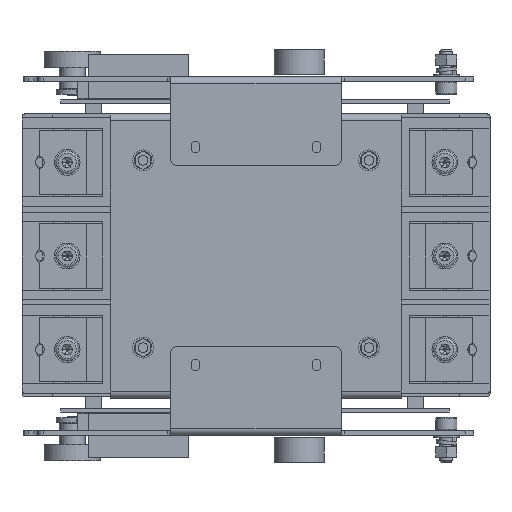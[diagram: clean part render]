
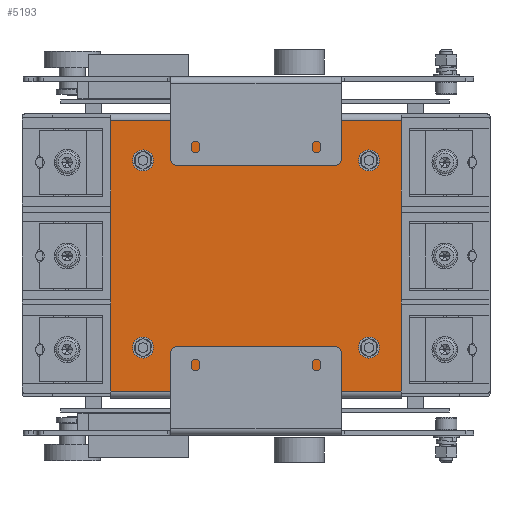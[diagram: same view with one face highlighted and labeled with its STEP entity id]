
A CAD part, front view. The second image highlights one B-rep face of the part: STEP entity #5193.
In plain terms, the highlighted planar face has unit normal (0, -1, 0).
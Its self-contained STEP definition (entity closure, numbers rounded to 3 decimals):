
#2436=FACE_BOUND('',#10329,.T.);
#2437=FACE_BOUND('',#10330,.T.);
#2438=FACE_BOUND('',#10331,.T.);
#2439=FACE_BOUND('',#10332,.T.);
#2440=FACE_BOUND('',#10333,.T.);
#3691=CIRCLE('',#37659,3.);
#3692=CIRCLE('',#37660,3.);
#3693=CIRCLE('',#37661,3.);
#3694=CIRCLE('',#37662,3.);
#5193=ADVANCED_FACE('',(#2436,#2437,#2438,#2439,#2440),#6995,.F.);
#6995=PLANE('',#37663);
#10329=EDGE_LOOP('',(#15410));
#10330=EDGE_LOOP('',(#15411));
#10331=EDGE_LOOP('',(#15412));
#10332=EDGE_LOOP('',(#15413));
#10333=EDGE_LOOP('',(#15414,#15415,#15416,#15417));
#15410=ORIENTED_EDGE('',*,*,#27072,.T.);
#15411=ORIENTED_EDGE('',*,*,#27073,.T.);
#15412=ORIENTED_EDGE('',*,*,#27074,.T.);
#15413=ORIENTED_EDGE('',*,*,#27075,.T.);
#15414=ORIENTED_EDGE('',*,*,#27041,.F.);
#15415=ORIENTED_EDGE('',*,*,#27076,.T.);
#15416=ORIENTED_EDGE('',*,*,#27053,.F.);
#15417=ORIENTED_EDGE('',*,*,#27077,.F.);
#23160=VERTEX_POINT('',#55850);
#23161=VERTEX_POINT('',#55852);
#23170=VERTEX_POINT('',#55874);
#23171=VERTEX_POINT('',#55876);
#23183=VERTEX_POINT('',#55911);
#23184=VERTEX_POINT('',#55913);
#23185=VERTEX_POINT('',#55915);
#23186=VERTEX_POINT('',#55917);
#27041=EDGE_CURVE('',#23160,#23161,#31275,.T.);
#27053=EDGE_CURVE('',#23170,#23171,#31282,.T.);
#27072=EDGE_CURVE('',#23183,#23183,#3691,.T.);
#27073=EDGE_CURVE('',#23184,#23184,#3692,.T.);
#27074=EDGE_CURVE('',#23185,#23185,#3693,.T.);
#27075=EDGE_CURVE('',#23186,#23186,#3694,.T.);
#27076=EDGE_CURVE('',#23160,#23171,#31293,.T.);
#27077=EDGE_CURVE('',#23161,#23170,#31294,.T.);
#31275=LINE('',#55851,#34481);
#31282=LINE('',#55875,#34488);
#31293=LINE('',#55918,#34499);
#31294=LINE('',#55919,#34500);
#34481=VECTOR('',#42638,1.);
#34488=VECTOR('',#42659,1.);
#34499=VECTOR('',#42702,1.);
#34500=VECTOR('',#42703,1.);
#37659=AXIS2_PLACEMENT_3D('',#55910,#42694,#42695);
#37660=AXIS2_PLACEMENT_3D('',#55912,#42696,#42697);
#37661=AXIS2_PLACEMENT_3D('',#55914,#42698,#42699);
#37662=AXIS2_PLACEMENT_3D('',#55916,#42700,#42701);
#37663=AXIS2_PLACEMENT_3D('',#55920,#42704,#42705);
#42638=DIRECTION('',(0.,0.,-1.));
#42659=DIRECTION('',(0.,0.,1.));
#42694=DIRECTION('',(0.,1.,0.));
#42695=DIRECTION('',(0.,0.,1.));
#42696=DIRECTION('',(0.,1.,0.));
#42697=DIRECTION('',(0.,0.,1.));
#42698=DIRECTION('',(0.,1.,0.));
#42699=DIRECTION('',(0.,0.,1.));
#42700=DIRECTION('',(0.,1.,0.));
#42701=DIRECTION('',(0.,0.,1.));
#42702=DIRECTION('',(-1.,0.,0.));
#42703=DIRECTION('',(-1.,0.,0.));
#42704=DIRECTION('',(0.,1.,0.));
#42705=DIRECTION('',(-1.,0.,0.));
#55850=CARTESIAN_POINT('',(1586.791,-152.876,173.2));
#55851=CARTESIAN_POINT('',(1586.791,-152.876,191.7));
#55852=CARTESIAN_POINT('',(1586.791,-152.876,5.2));
#55874=CARTESIAN_POINT('',(1406.791,-152.876,5.2));
#55875=CARTESIAN_POINT('',(1406.791,-152.876,191.7));
#55876=CARTESIAN_POINT('',(1406.791,-152.876,173.2));
#55910=CARTESIAN_POINT('',(1426.791,-152.876,148.45));
#55911=CARTESIAN_POINT('',(1426.791,-152.876,151.45));
#55912=CARTESIAN_POINT('',(1426.791,-152.876,32.45));
#55913=CARTESIAN_POINT('',(1426.791,-152.876,35.45));
#55914=CARTESIAN_POINT('',(1566.791,-152.876,32.45));
#55915=CARTESIAN_POINT('',(1566.791,-152.876,35.45));
#55916=CARTESIAN_POINT('',(1566.791,-152.876,148.45));
#55917=CARTESIAN_POINT('',(1566.791,-152.876,151.45));
#55918=CARTESIAN_POINT('',(1631.797,-152.876,173.2));
#55919=CARTESIAN_POINT('',(1631.797,-152.876,5.2));
#55920=CARTESIAN_POINT('',(1409.291,-152.876,191.7));
